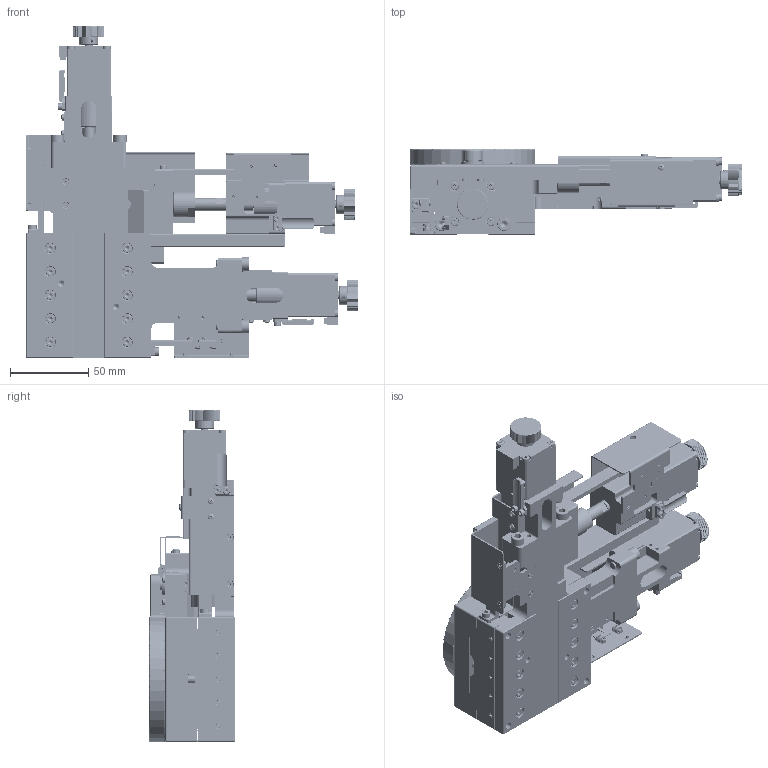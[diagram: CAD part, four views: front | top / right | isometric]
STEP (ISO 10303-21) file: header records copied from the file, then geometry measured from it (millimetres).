
FILE_DESCRIPTION (( 'STEP AP214' ), '1' );
FILE_NAME ('TXYRA80-L1-M28.STEP', '2025-01-03T07:58:45', ( '' ), ( '' ), 'SwSTEP 2.0', 'SolidWorks 2020', '' );
FILE_SCHEMA (( 'AUTOMOTIVE_DESIGN' ));
Length unit declared in the file: millimetre
Products named in the file (1): TXYRA80-L1-M28
Bounding box: 211.8 x 55 x 211.8 mm (x, y, z)
Volume: 609450.1 mm3; surface area: 237172.3 mm2
Topology: 176 solids, 194 shells, 8843 faces, 20290 edges, 11973 vertices
Faces by surface type: plane 4378, cylinder 2230, cone 1722, torus 404, sphere 58, bspline 51
Entity records: 352245 total; most frequent: CARTESIAN_POINT 54197, DIRECTION 43124, ORIENTED_EDGE 39998, EDGE_CURVE 19999, AXIS2_PLACEMENT_3D 16306, VERTEX_POINT 11973, VECTOR 10512, LINE 10512
